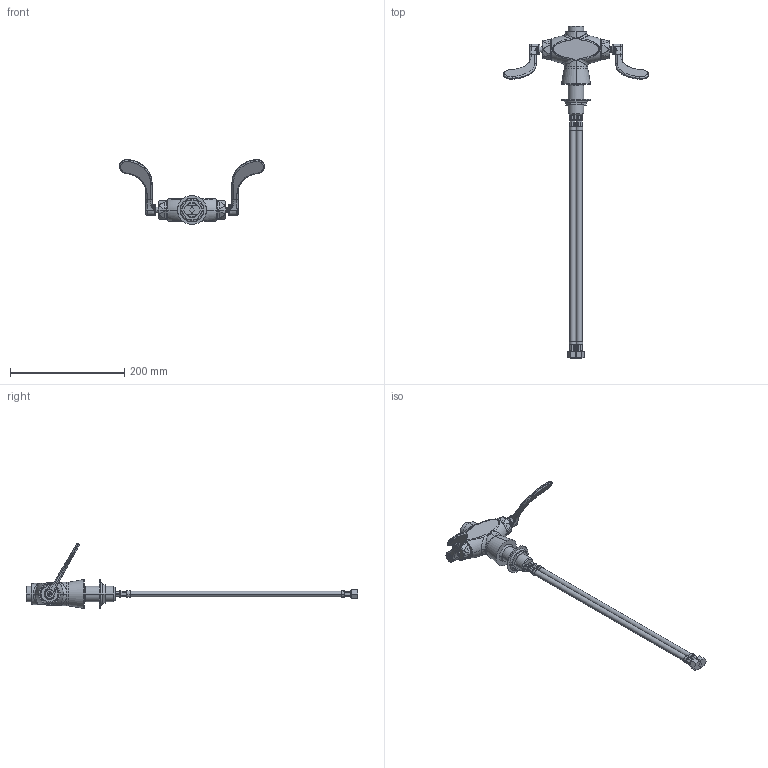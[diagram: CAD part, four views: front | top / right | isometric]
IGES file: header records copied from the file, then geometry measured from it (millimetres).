
Start section:  PTC IGES file: 50-les317xkab_sw0001.igs
Global section: file name: 50-les317xkab_sw0001.igs; native system: Creo Parametric by Parametric Technology Corporation; preprocessor: 2013050; author: jrodriguez; organization: Unknown; date: 20131021.164021; units: inch
Bounding box: 254 x 580.68 x 113.79 mm (x, y, z)
Surface area: 83302.2 mm2 (no closed solid volume)
Topology: 0 solids, 0 shells, 367 faces, 2796 edges, 3776 vertices
Faces by surface type: bspline 199, revolution 168
